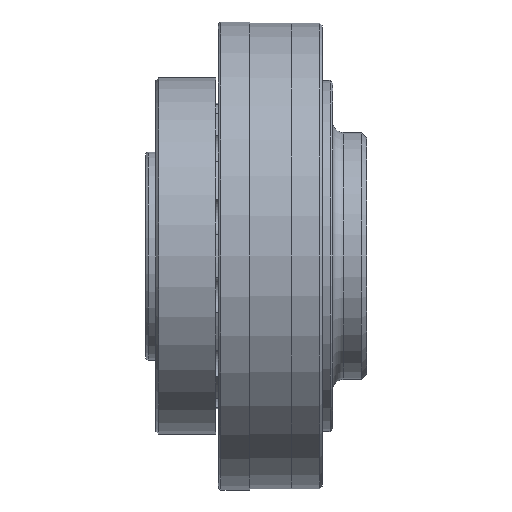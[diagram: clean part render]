
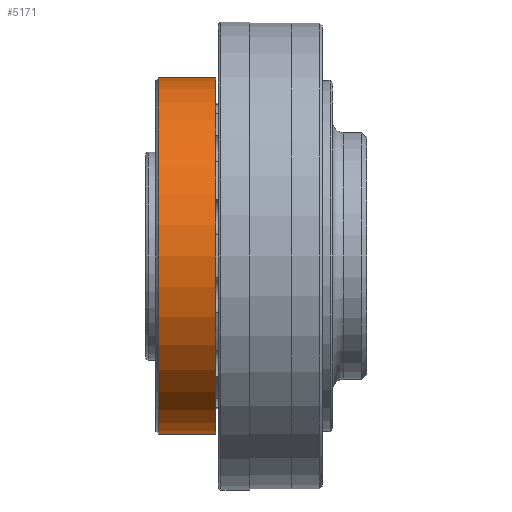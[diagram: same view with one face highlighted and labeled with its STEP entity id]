
A CAD part, front view. The second image highlights one B-rep face of the part: STEP entity #5171.
In plain terms, the highlighted cylindrical face has radius 68.5 mm (diameter 137 mm), a full revolution.
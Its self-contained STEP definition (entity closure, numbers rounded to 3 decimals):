
#621=FACE_OUTER_BOUND('',#1036,.T.);
#1036=EDGE_LOOP('',(#4343,#4344,#4345,#4346,#4347,#4348));
#1304=LINE('',#9305,#1520);
#1520=VECTOR('',#7589,68.5);
#1909=CIRCLE('',#6023,68.5);
#1910=CIRCLE('',#6024,68.5);
#1950=CIRCLE('',#6066,68.5);
#1951=CIRCLE('',#6067,68.5);
#2450=VERTEX_POINT('',#9216);
#2451=VERTEX_POINT('',#9217);
#2491=VERTEX_POINT('',#9301);
#2492=VERTEX_POINT('',#9302);
#3105=EDGE_CURVE('',#2450,#2451,#1909,.T.);
#3106=EDGE_CURVE('',#2451,#2450,#1910,.T.);
#3147=EDGE_CURVE('',#2491,#2492,#1950,.T.);
#3148=EDGE_CURVE('',#2492,#2491,#1951,.T.);
#3149=EDGE_CURVE('',#2492,#2451,#1304,.T.);
#4343=ORIENTED_EDGE('',*,*,#3147,.F.);
#4344=ORIENTED_EDGE('',*,*,#3148,.F.);
#4345=ORIENTED_EDGE('',*,*,#3149,.T.);
#4346=ORIENTED_EDGE('',*,*,#3105,.F.);
#4347=ORIENTED_EDGE('',*,*,#3106,.F.);
#4348=ORIENTED_EDGE('',*,*,#3149,.F.);
#4924=CYLINDRICAL_SURFACE('',#6065,68.5);
#5171=ADVANCED_FACE('',(#621),#4924,.T.);
#6023=AXIS2_PLACEMENT_3D('',#9218,#7498,#7499);
#6024=AXIS2_PLACEMENT_3D('',#9219,#7500,#7501);
#6065=AXIS2_PLACEMENT_3D('',#9300,#7583,#7584);
#6066=AXIS2_PLACEMENT_3D('',#9303,#7585,#7586);
#6067=AXIS2_PLACEMENT_3D('',#9304,#7587,#7588);
#7498=DIRECTION('center_axis',(-1.,0.,0.));
#7499=DIRECTION('ref_axis',(0.,-1.,0.));
#7500=DIRECTION('center_axis',(-1.,0.,0.));
#7501=DIRECTION('ref_axis',(0.,-1.,0.));
#7583=DIRECTION('center_axis',(1.,0.,0.));
#7584=DIRECTION('ref_axis',(0.,1.,0.));
#7585=DIRECTION('center_axis',(1.,0.,0.));
#7586=DIRECTION('ref_axis',(0.,1.,0.));
#7587=DIRECTION('center_axis',(1.,0.,0.));
#7588=DIRECTION('ref_axis',(0.,1.,0.));
#7589=DIRECTION('',(-1.,0.,0.));
#9216=CARTESIAN_POINT('',(5.,68.5,0.));
#9217=CARTESIAN_POINT('',(5.,-68.5,0.));
#9218=CARTESIAN_POINT('Origin',(5.,0.,0.));
#9219=CARTESIAN_POINT('Origin',(5.,0.,0.));
#9300=CARTESIAN_POINT('Origin',(15.5,0.,0.));
#9301=CARTESIAN_POINT('',(27.,68.5,0.));
#9302=CARTESIAN_POINT('',(27.,-68.5,0.));
#9303=CARTESIAN_POINT('Origin',(27.,0.,0.));
#9304=CARTESIAN_POINT('Origin',(27.,0.,0.));
#9305=CARTESIAN_POINT('',(15.5,-68.5,0.));
